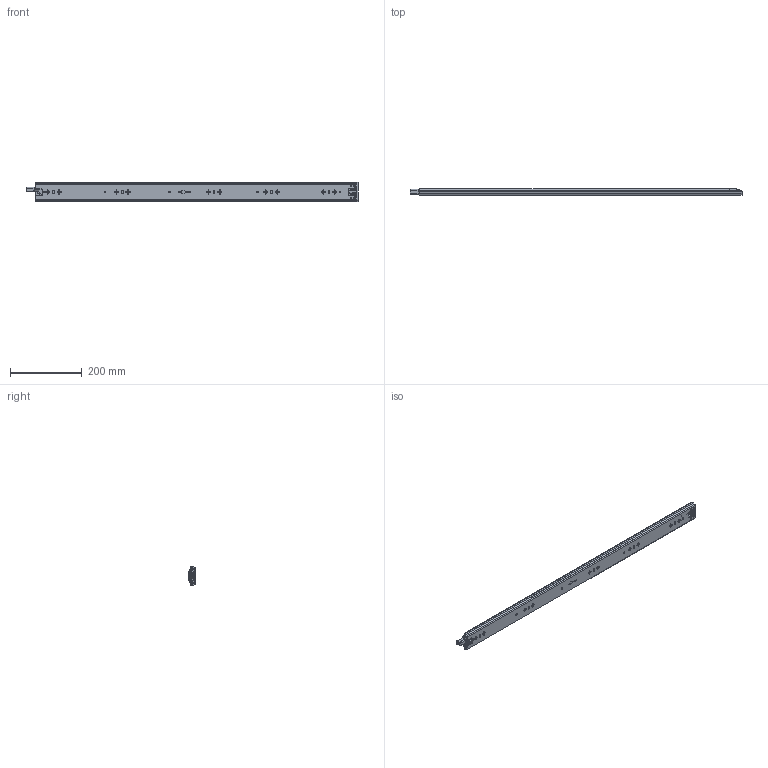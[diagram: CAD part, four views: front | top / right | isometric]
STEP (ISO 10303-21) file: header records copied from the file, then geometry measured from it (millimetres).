
FILE_DESCRIPTION((''),'2;1');
FILE_NAME('1053-3S-36YOU_ASM','2023-04-12T',('jishu015'),(''),'PRO/ENGINEER BY PARAMETRIC TECHNOLOGY CORPORATION, 2010280','PRO/ENGINEER BY PARAMETRIC TECHNOLOGY CORPORATION, 2010280','');
FILE_SCHEMA(('CONFIG_CONTROL_DESIGN'));
Products named in the file (20): 1053-02-18WAIKE_____________; 1053WEIJIAO_____________; 1053-3S-24WAIKE______________ASM; 1053ZHUTIAO-175_____________; 53-5-6GANZHU_____________; 1053ZHUTIAO-175MM______________ASM; 1053-02-18ZHONGGUI_____________; ZHONGGUIPEIJIAN___________; ZHONGGUISUOKOU___________; 1053-02-18ZHONGGUI______________ASM; 1053XIAOZHUJIA-14GE32; 1053XIAOZHUJIA-14GE32_ASM; 1053-02-18NEIGUI_____________; DAOPIAN_________; PIAN_________; 1053-3SBANJI123________; JIAO-11________; 50XINSUOKOU11_______; 1053-02-18NEIGUI______________ASM; 1053-3S-36YOU_ASM
Assembly tree (99 placements, depth 3):
  1053-3S-36YOU_ASM
    1053-3S-24WAIKE______________ASM
      1053-02-18WAIKE_____________
      1053WEIJIAO_____________
    1053ZHUTIAO-175MM______________ASM  x2
      1053ZHUTIAO-175_____________
      53-5-6GANZHU_____________
    1053-02-18ZHONGGUI______________ASM
      1053-02-18ZHONGGUI_____________
      ZHONGGUIPEIJIAN___________
      ZHONGGUISUOKOU___________
    1053XIAOZHUJIA-14GE32_ASM
      1053XIAOZHUJIA-14GE32
      53-5-6GANZHU_____________  x64
    1053-02-18NEIGUI______________ASM
      1053-02-18NEIGUI_____________
      DAOPIAN_________
      PIAN_________
      1053-3SBANJI123________
      JIAO-11________
      50XINSUOKOU11_______
Bounding box: 925.42 x 18.7 x 53 mm (x, y, z)
Volume: 343611.5 mm3; surface area: 398355.8 mm2
Topology: 111 solids, 111 shells, 2742 faces, 7955 edges, 4960 vertices
Faces by surface type: cylinder 1199, plane 1098, sphere 200, bspline 120, cone 86, extrusion 23, torus 16
Entity records: 88385 total; most frequent: CARTESIAN_POINT 21979, ORIENTED_EDGE 14108, DIRECTION 13643, EDGE_CURVE 7054, AXIS2_PLACEMENT_3D 4719, VERTEX_POINT 4559, VECTOR 4205, LINE 4182
